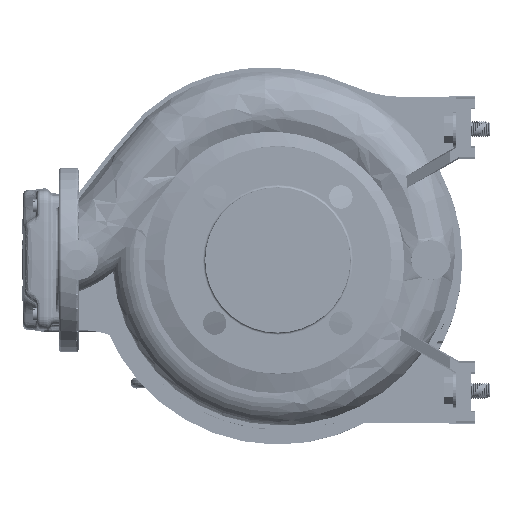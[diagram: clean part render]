
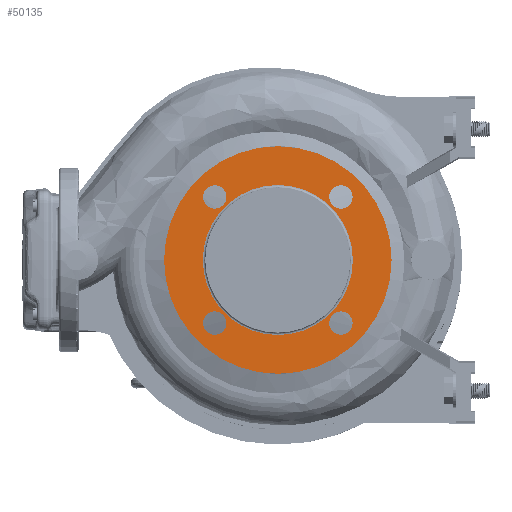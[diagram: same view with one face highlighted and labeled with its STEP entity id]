
A CAD part, left-side view. The second image highlights one B-rep face of the part: STEP entity #50135.
In plain terms, the highlighted planar face has unit normal (-1, 0, 0).
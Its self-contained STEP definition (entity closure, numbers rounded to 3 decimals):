
#13 = EDGE_CURVE ( 'NONE', #172499, #12867, #18619, .T. ) ;
#4612 = CARTESIAN_POINT ( 'NONE',  ( -146.784, 225.937, 365.904 ) ) ;
#5365 = ORIENTED_EDGE ( 'NONE', *, *, #183615, .F. ) ;
#7265 = ORIENTED_EDGE ( 'NONE', *, *, #174355, .T. ) ;
#7896 = CIRCLE ( 'NONE', #112682, 9.5 ) ;
#12867 = VERTEX_POINT ( 'NONE', #70008 ) ;
#14099 = CARTESIAN_POINT ( 'NONE',  ( -146.784, 235.672, 314.638 ) ) ;
#14816 = CARTESIAN_POINT ( 'NONE',  ( -146.784, 123.407, 365.904 ) ) ;
#15990 = DIRECTION ( 'NONE',  ( -1., 0., 0. ) ) ;
#18619 = CIRCLE ( 'NONE', #159471, 9.5 ) ;
#20149 = AXIS2_PLACEMENT_3D ( 'NONE', #101681, #113901, #115730 ) ;
#20338 = CARTESIAN_POINT ( 'NONE',  ( -146.784, 225.937, 263.373 ) ) ;
#23012 = EDGE_CURVE ( 'NONE', #34571, #108462, #101009, .T. ) ;
#23247 = ORIENTED_EDGE ( 'NONE', *, *, #62767, .F. ) ;
#25109 = DIRECTION ( 'NONE',  ( 0., -1., 0. ) ) ;
#26706 = DIRECTION ( 'NONE',  ( 0., -1., 0. ) ) ;
#26993 = AXIS2_PLACEMENT_3D ( 'NONE', #69820, #56699, #26706 ) ;
#27367 = VERTEX_POINT ( 'NONE', #75234 ) ;
#29665 = CIRCLE ( 'NONE', #44634, 9.5 ) ;
#29800 = DIRECTION ( 'NONE',  ( -1., 0., 0. ) ) ;
#31514 = CARTESIAN_POINT ( 'NONE',  ( -146.784, 123.407, 263.373 ) ) ;
#32942 = FACE_OUTER_BOUND ( 'NONE', #157252, .T. ) ;
#32967 = VERTEX_POINT ( 'NONE', #152104 ) ;
#33426 = CARTESIAN_POINT ( 'NONE',  ( -146.784, 225.937, 365.904 ) ) ;
#34571 = VERTEX_POINT ( 'NONE', #132775 ) ;
#34753 = DIRECTION ( 'NONE',  ( 0., 1., 0. ) ) ;
#36102 = CIRCLE ( 'NONE', #26993, 92.5 ) ;
#36493 = AXIS2_PLACEMENT_3D ( 'NONE', #88176, #15990, #89103 ) ;
#37780 = DIRECTION ( 'NONE',  ( 0., 1., 0. ) ) ;
#39173 = DIRECTION ( 'NONE',  ( -1., 0., 0. ) ) ;
#41433 = DIRECTION ( 'NONE',  ( -1., 0., 0. ) ) ;
#41456 = EDGE_LOOP ( 'NONE', ( #143505, #141818 ) ) ;
#44634 = AXIS2_PLACEMENT_3D ( 'NONE', #96106, #139230, #50168 ) ;
#44905 = ORIENTED_EDGE ( 'NONE', *, *, #127168, .F. ) ;
#46298 = CARTESIAN_POINT ( 'NONE',  ( -146.784, 267.172, 314.638 ) ) ;
#46871 = CARTESIAN_POINT ( 'NONE',  ( -146.784, 216.437, 263.373 ) ) ;
#46983 = CARTESIAN_POINT ( 'NONE',  ( -146.784, 235.437, 263.373 ) ) ;
#47318 = AXIS2_PLACEMENT_3D ( 'NONE', #181752, #39173, #25109 ) ;
#47529 = DIRECTION ( 'NONE',  ( 0., 0., 1. ) ) ;
#48817 = CARTESIAN_POINT ( 'NONE',  ( -146.784, 235.672, 314.638 ) ) ;
#50135 = ADVANCED_FACE ( 'NONE', ( #132319, #106937, #136005, #177326, #61947, #32942 ), #133240, .F. ) ;
#50168 = DIRECTION ( 'NONE',  ( 0., 0., 1. ) ) ;
#50433 = DIRECTION ( 'NONE',  ( -1., 0., 0. ) ) ;
#56318 = AXIS2_PLACEMENT_3D ( 'NONE', #20338, #131968, #47529 ) ;
#56579 = AXIS2_PLACEMENT_3D ( 'NONE', #33426, #79282, #175971 ) ;
#56699 = DIRECTION ( 'NONE',  ( -1., 0., 0. ) ) ;
#57567 = EDGE_LOOP ( 'NONE', ( #144353, #5365 ) ) ;
#59657 = DIRECTION ( 'NONE',  ( 0., 1., 0. ) ) ;
#61947 = FACE_BOUND ( 'NONE', #145925, .T. ) ;
#62767 = EDGE_CURVE ( 'NONE', #69655, #86855, #146327, .T. ) ;
#63871 = VERTEX_POINT ( 'NONE', #122389 ) ;
#69334 = EDGE_LOOP ( 'NONE', ( #101301, #87468 ) ) ;
#69655 = VERTEX_POINT ( 'NONE', #46871 ) ;
#69820 = CARTESIAN_POINT ( 'NONE',  ( -146.784, 174.672, 314.638 ) ) ;
#70008 = CARTESIAN_POINT ( 'NONE',  ( -146.784, 113.907, 365.904 ) ) ;
#71278 = CIRCLE ( 'NONE', #47318, 61. ) ;
#73326 = EDGE_CURVE ( 'NONE', #82792, #32967, #36102, .T. ) ;
#75234 = CARTESIAN_POINT ( 'NONE',  ( -146.784, 235.437, 365.904 ) ) ;
#77725 = DIRECTION ( 'NONE',  ( 0., -1., 0. ) ) ;
#79282 = DIRECTION ( 'NONE',  ( -1., 0., 0. ) ) ;
#82792 = VERTEX_POINT ( 'NONE', #46298 ) ;
#84371 = AXIS2_PLACEMENT_3D ( 'NONE', #4612, #106774, #77725 ) ;
#85127 = DIRECTION ( 'NONE',  ( 0., 0., -1. ) ) ;
#86855 = VERTEX_POINT ( 'NONE', #46983 ) ;
#87468 = ORIENTED_EDGE ( 'NONE', *, *, #116643, .F. ) ;
#88176 = CARTESIAN_POINT ( 'NONE',  ( -146.784, 174.672, 314.638 ) ) ;
#88715 = DIRECTION ( 'NONE',  ( -1., 0., 0. ) ) ;
#89103 = DIRECTION ( 'NONE',  ( 0., -1., 0. ) ) ;
#89981 = VERTEX_POINT ( 'NONE', #181844 ) ;
#93145 = AXIS2_PLACEMENT_3D ( 'NONE', #95934, #41433, #37780 ) ;
#95934 = CARTESIAN_POINT ( 'NONE',  ( -146.784, 123.407, 263.373 ) ) ;
#96106 = CARTESIAN_POINT ( 'NONE',  ( -146.784, 225.937, 263.373 ) ) ;
#100122 = AXIS2_PLACEMENT_3D ( 'NONE', #31514, #88715, #59657 ) ;
#101009 = CIRCLE ( 'NONE', #20149, 61. ) ;
#101301 = ORIENTED_EDGE ( 'NONE', *, *, #153786, .F. ) ;
#101681 = CARTESIAN_POINT ( 'NONE',  ( -146.784, 174.672, 314.638 ) ) ;
#104020 = ORIENTED_EDGE ( 'NONE', *, *, #122999, .F. ) ;
#106024 = DIRECTION ( 'NONE',  ( 1., 0., 0. ) ) ;
#106774 = DIRECTION ( 'NONE',  ( -1., 0., 0. ) ) ;
#106937 = FACE_BOUND ( 'NONE', #69334, .T. ) ;
#106998 = EDGE_CURVE ( 'NONE', #108598, #27367, #153220, .T. ) ;
#107662 = DIRECTION ( 'NONE',  ( 0., 0., -1. ) ) ;
#108462 = VERTEX_POINT ( 'NONE', #14099 ) ;
#108598 = VERTEX_POINT ( 'NONE', #174415 ) ;
#112682 = AXIS2_PLACEMENT_3D ( 'NONE', #162131, #50433, #107662 ) ;
#113901 = DIRECTION ( 'NONE',  ( -1., 0., 0. ) ) ;
#115730 = DIRECTION ( 'NONE',  ( 0., -1., 0. ) ) ;
#116643 = EDGE_CURVE ( 'NONE', #63871, #89981, #130101, .T. ) ;
#117327 = CIRCLE ( 'NONE', #36493, 92.5 ) ;
#122389 = CARTESIAN_POINT ( 'NONE',  ( -146.784, 132.907, 263.373 ) ) ;
#122999 = EDGE_CURVE ( 'NONE', #108462, #34571, #71278, .T. ) ;
#126063 = CIRCLE ( 'NONE', #93145, 9.5 ) ;
#127168 = EDGE_CURVE ( 'NONE', #86855, #69655, #29665, .T. ) ;
#130101 = CIRCLE ( 'NONE', #100122, 9.5 ) ;
#130166 = EDGE_CURVE ( 'NONE', #12867, #172499, #7896, .T. ) ;
#131968 = DIRECTION ( 'NONE',  ( -1., 0., 0. ) ) ;
#132319 = FACE_BOUND ( 'NONE', #41456, .T. ) ;
#132775 = CARTESIAN_POINT ( 'NONE',  ( -146.784, 113.672, 314.638 ) ) ;
#133240 = PLANE ( 'NONE',  #161640 ) ;
#136005 = FACE_BOUND ( 'NONE', #170889, .T. ) ;
#139230 = DIRECTION ( 'NONE',  ( -1., 0., 0. ) ) ;
#141818 = ORIENTED_EDGE ( 'NONE', *, *, #13, .F. ) ;
#143505 = ORIENTED_EDGE ( 'NONE', *, *, #130166, .F. ) ;
#144353 = ORIENTED_EDGE ( 'NONE', *, *, #106998, .F. ) ;
#145925 = EDGE_LOOP ( 'NONE', ( #154681, #104020 ) ) ;
#146327 = CIRCLE ( 'NONE', #56318, 9.5 ) ;
#152104 = CARTESIAN_POINT ( 'NONE',  ( -146.784, 82.172, 314.638 ) ) ;
#153220 = CIRCLE ( 'NONE', #84371, 9.5 ) ;
#153786 = EDGE_CURVE ( 'NONE', #89981, #63871, #126063, .T. ) ;
#154681 = ORIENTED_EDGE ( 'NONE', *, *, #23012, .F. ) ;
#157252 = EDGE_LOOP ( 'NONE', ( #7265, #162172 ) ) ;
#159471 = AXIS2_PLACEMENT_3D ( 'NONE', #14816, #29800, #85127 ) ;
#161640 = AXIS2_PLACEMENT_3D ( 'NONE', #48817, #106024, #34753 ) ;
#162131 = CARTESIAN_POINT ( 'NONE',  ( -146.784, 123.407, 365.904 ) ) ;
#162172 = ORIENTED_EDGE ( 'NONE', *, *, #73326, .T. ) ;
#164528 = CARTESIAN_POINT ( 'NONE',  ( -146.784, 132.907, 365.904 ) ) ;
#170419 = CIRCLE ( 'NONE', #56579, 9.5 ) ;
#170889 = EDGE_LOOP ( 'NONE', ( #23247, #44905 ) ) ;
#172499 = VERTEX_POINT ( 'NONE', #164528 ) ;
#174355 = EDGE_CURVE ( 'NONE', #32967, #82792, #117327, .T. ) ;
#174415 = CARTESIAN_POINT ( 'NONE',  ( -146.784, 216.437, 365.904 ) ) ;
#175971 = DIRECTION ( 'NONE',  ( 0., -1., 0. ) ) ;
#177326 = FACE_BOUND ( 'NONE', #57567, .T. ) ;
#181752 = CARTESIAN_POINT ( 'NONE',  ( -146.784, 174.672, 314.638 ) ) ;
#181844 = CARTESIAN_POINT ( 'NONE',  ( -146.784, 113.907, 263.373 ) ) ;
#183615 = EDGE_CURVE ( 'NONE', #27367, #108598, #170419, .T. ) ;
